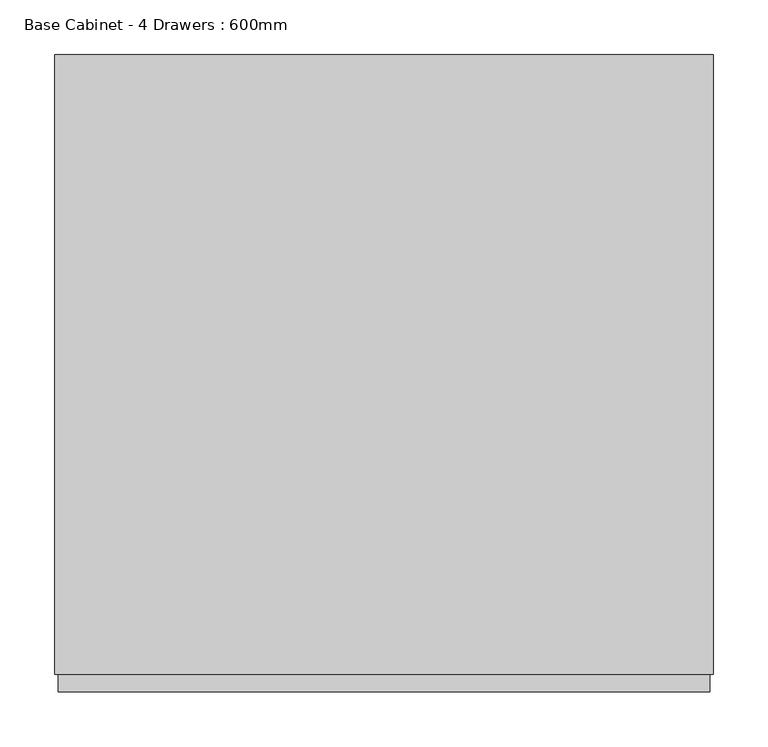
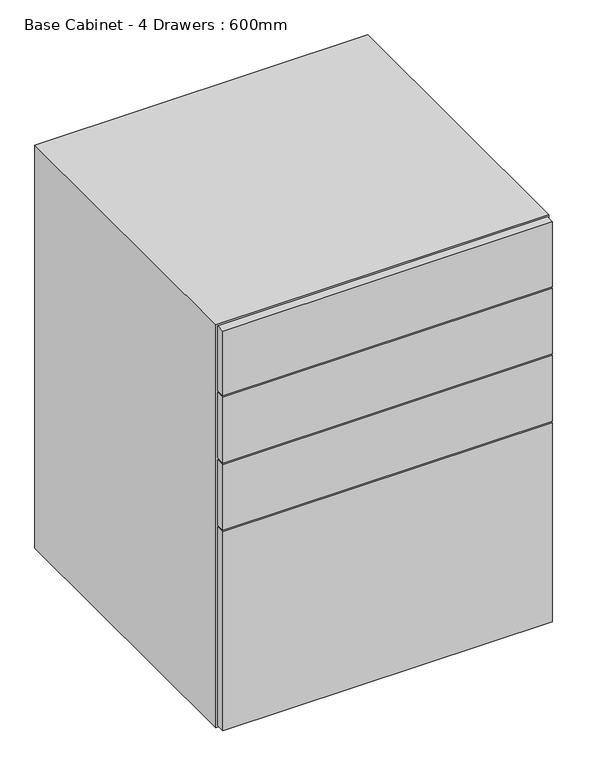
"""IFC4 building model written with IfcOpenShell, lengths in millimetres: furniture geometry, Base Cabinet - 4 Drawers : 600mm."""

from ifc_helpers import new_model, si_unit, frame, origin, place, context, project, spatial, polyline, outline, extrude, source, transform, mapped, element, save


def base_cabinet_4_drawers_600mm_0668e636(model_context):
    return source(origin(), model_context, "Body", "SweptSolid", [
        extrude(outline(polyline([(341.7003264, -581.0), (-252.2996736, -581.0), (-252.2996736, -565.0), (341.7003264, -565.0), (341.7003264, -581.0)])), frame((0.0, 0.0, 741.5), z_axis=(0.0, 0.0, 1.0), x_axis=(1.0, 0.0, 0.0)), (0.0, 0.0, 1.0), 123.5),
        extrude(outline(polyline([(341.7003264, -581.0), (-252.2996736, -581.0), (-252.2996736, -565.0), (341.7003264, -565.0), (341.7003264, -581.0)])), frame((0.0, 0.0, 103.0), z_axis=(0.0, 0.0, 1.0), x_axis=(1.0, 0.0, 0.0)), (0.0, 0.0, 1.0), 379.5),
        extrude(outline(polyline([(341.7003264, -581.0), (-252.2996736, -581.0), (-252.2996736, -565.0), (341.7003264, -565.0), (341.7003264, -581.0)])), frame((0.0, 0.0, 613.5), z_axis=(0.0, 0.0, 1.0), x_axis=(1.0, 0.0, 0.0)), (0.0, 0.0, 1.0), 125.0),
        extrude(outline(polyline([(341.7003264, -581.0), (-252.2996736, -581.0), (-252.2996736, -565.0), (341.7003264, -565.0), (341.7003264, -581.0)])), frame((0.0, 0.0, 485.5), z_axis=(0.0, 0.0, 1.0), x_axis=(1.0, 0.0, 0.0)), (0.0, 0.0, 1.0), 125.0),
        extrude(outline(polyline([(868.0, 344.7003264), (868.0, -255.2996736), (100.0, -255.2996736), (100.0, 344.7003264), (868.0, 344.7003264)]), holes=[polyline([(852.0, 328.7003264), (116.0, 328.7003264), (116.0, -239.2996736), (852.0, -239.2996736), (852.0, 328.7003264)])]), frame((0.0, -565.0, 0.0), z_axis=(0.0, 1.0, 0.0), x_axis=(0.0, 0.0, 1.0)), (0.0, 0.0, 1.0), 565.0),
        extrude(outline(polyline([(328.7003264, -10.0), (328.7003264, -16.0), (-239.2996736, -16.0), (-239.2996736, -10.0), (328.7003264, -10.0)])), frame((0.0, 0.0, 116.0), z_axis=(0.0, 0.0, 1.0), x_axis=(1.0, 0.0, 0.0)), (0.0, 0.0, 1.0), 672.0),
    ])


if __name__ == "__main__":
    model = new_model("IFC4")
    model_context = context("Model", 3, world=origin())
    ifc_project = project(units=[si_unit("LENGTHUNIT", "METRE", prefix="MILLI")], contexts=[model_context])
    site = spatial("IfcSite", under=ifc_project)
    building = spatial("IfcBuilding", under=site)
    placement = place(None, origin())
    base_cabinet_4_drawers_600mm_shape = base_cabinet_4_drawers_600mm_0668e636(model_context)
    element("IfcFurniture", 1, ObjectType="Base Cabinet - 4 Drawers : 600mm", at=placement, inside=building, context=model_context, shape_type="MappedRepresentation", body=[
        mapped(base_cabinet_4_drawers_600mm_shape, transform((0.0, 0.0, 0.0), x_axis=(1.0, 0.0, 0.0), y_axis=(0.0, 1.0, 0.0), z_axis=(0.0, 0.0, 1.0))),
    ])
    save(model, "model.ifc")
